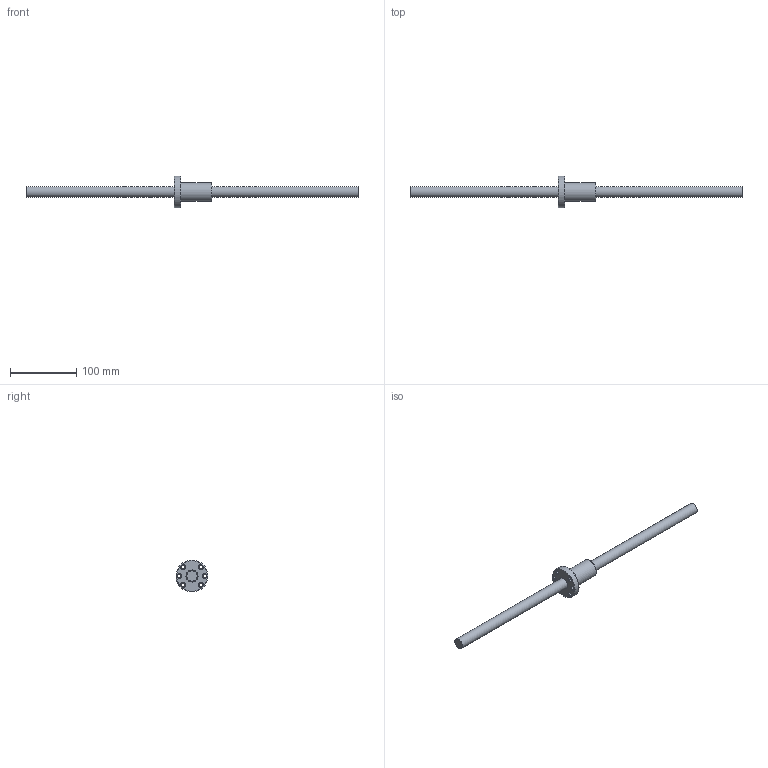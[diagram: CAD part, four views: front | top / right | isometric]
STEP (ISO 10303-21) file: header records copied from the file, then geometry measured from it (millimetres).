
FILE_DESCRIPTION (( 'STEP AP203' ), '1' );
FILE_NAME ('SFNU01610N-3.step', '2024-05-10T06:59:51', ( '' ), ( '' ), 'SwSTEP 2.0', 'SolidWorks 2022', '' );
FILE_SCHEMA (( 'CONFIG_CONTROL_DESIGN' ));
Length unit declared in the file: millimetre
Products named in the file (1): SFNU01610N-3
Bounding box: 500 x 48 x 48 mm (x, y, z)
Volume: 130845.6 mm3; surface area: 38248.6 mm2
Topology: 2 solids, 2 shells, 45 faces, 111 edges, 71 vertices
Faces by surface type: cylinder 18, cone 13, plane 6, bspline 5, torus 3
Full cylindrical faces by diameter (mm): 4 x1, 5 x6, 5.5 x6, 16 x1, 18.1 x1, 28 x1, 48 x1
Entity records: 2729 total; most frequent: CARTESIAN_POINT 1934, DIRECTION 148, ORIENTED_EDGE 102, EDGE_LOOP 84, AXIS2_PLACEMENT_3D 72, FACE_OUTER_BOUND 54, EDGE_CURVE 51, VERTEX_POINT 47
